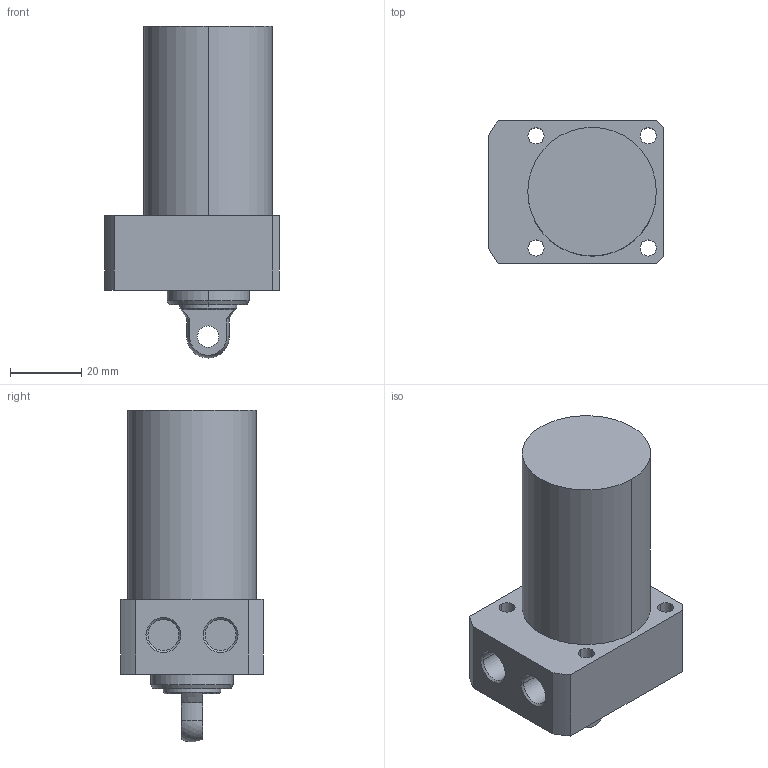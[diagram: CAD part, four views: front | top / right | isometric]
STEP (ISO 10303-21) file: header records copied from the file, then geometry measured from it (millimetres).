
FILE_DESCRIPTION((' '),'2;1');
FILE_NAME( 'TLLR-036CP-045.STEP.stp', '2025-10-24T16:35:49', (' '), ('--- Datakit www.datakit.com---'), ' Datakit CrossCadWare V2024.1 Dec 21 2023', 'Mastercam 2025', ' ');
FILE_SCHEMA(('AUTOMOTIVE_DESIGN { 1 0 10303 214 1 1 1 1 }'));
Length unit declared in the file: millimetre
Products named in the file (1): TLLR-036CP-045
Bounding box: 49 x 40 x 92.97 mm (x, y, z)
Volume: 94492.6 mm3; surface area: 16018 mm2
Topology: 1 solids, 1 shells, 55 faces, 157 edges, 111 vertices
Faces by surface type: cylinder 28, plane 18, cone 8, sphere 1
Entity records: 1924 total; most frequent: DIRECTION 360, CARTESIAN_POINT 336, ORIENTED_EDGE 314, EDGE_CURVE 157, AXIS2_PLACEMENT_3D 151, VERTEX_POINT 111, CIRCLE 95, EDGE_LOOP 72
